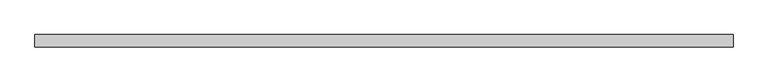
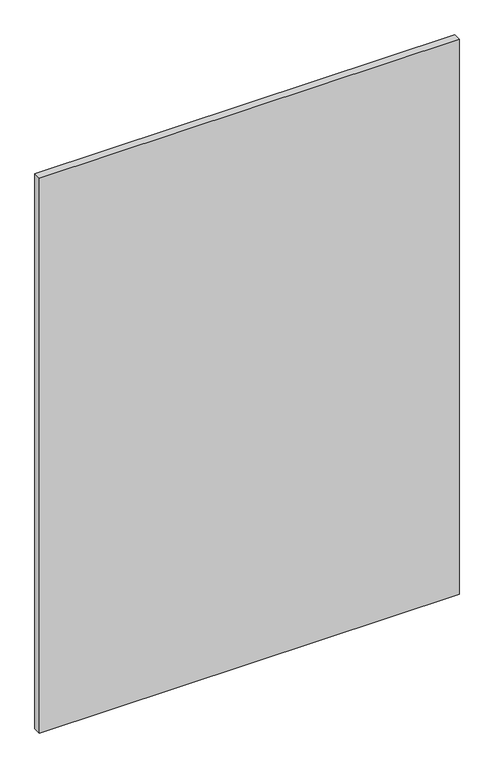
"""IFC4 building model written with IfcOpenShell, lengths in millimetres: plate geometry, 系统嵌板 : 玻璃."""

from ifc_helpers import new_model, si_unit, origin, origin_with_axes, place, context, project, spatial, polyline, outline, extrude, source, transform, mapped, element, save


def plate_bfa908b4(model_context):
    return source(origin(), model_context, "Body", "SweptSolid", [
        extrude(outline(polyline([(705.0038158, -12.5), (-705.0038158, -12.5), (-705.0038158, 12.5), (705.0038158, 12.5), (705.0038158, -12.5)])), origin_with_axes(), (0.0, 0.0, 1.0), 1970.0),
    ])


if __name__ == "__main__":
    model = new_model("IFC4")
    model_context = context("Model", 3, world=origin())
    ifc_project = project(units=[si_unit("LENGTHUNIT", "METRE", prefix="MILLI")], contexts=[model_context])
    site = spatial("IfcSite", under=ifc_project)
    building = spatial("IfcBuilding", under=site)
    placement = place(None, origin())
    plate_shape = plate_bfa908b4(model_context)
    element("IfcPlate", 1, ObjectType="系统嵌板 : 玻璃", at=placement, inside=building, context=model_context, shape_type="MappedRepresentation", body=[
        mapped(plate_shape, transform((0.0, 0.0, 0.0), x_axis=(1.0, 0.0, 0.0), y_axis=(0.0, 1.0, 0.0), z_axis=(0.0, 0.0, 1.0))),
    ])
    save(model, "model.ifc")
